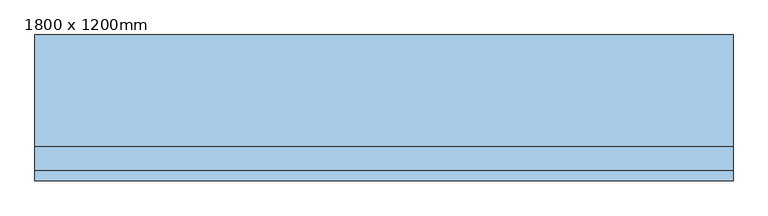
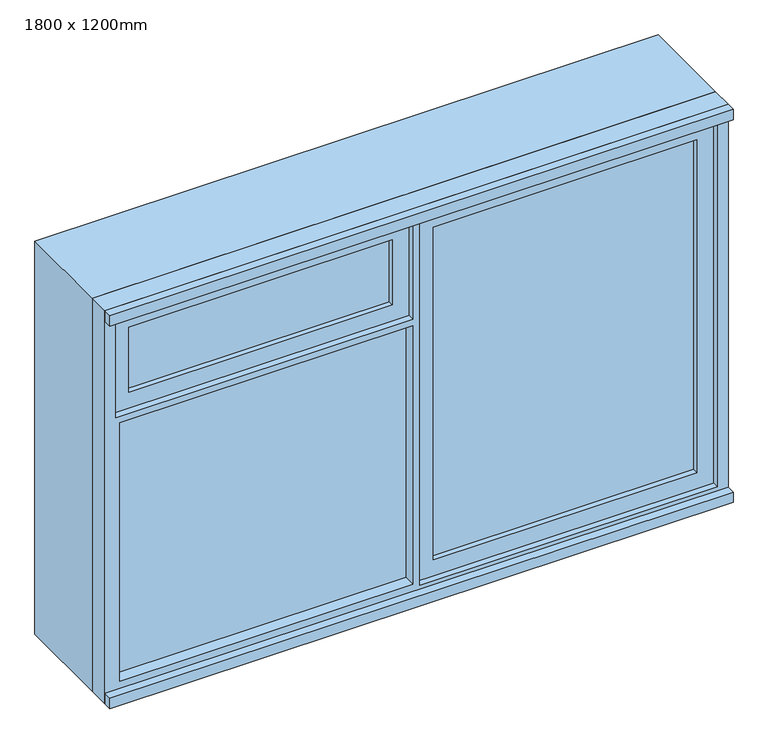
"""IFC4 building model written with IfcOpenShell, lengths in millimetres: window geometry, DvoukridleVentilace : 1800 x 1200mm."""

from ifc_helpers import new_model, si_unit, frame, origin, place, context, project, spatial, polyline, outline, extrude, source, transform, mapped, element, save


def window_1800_x_1200mm_3cd8aec8(model_context):
    return source(origin(), model_context, "Body", "SweptSolid", [
        extrude(outline(polyline([(-820.25, -140.075), (-820.25, -127.375), (-59.0, -127.375), (-59.0, -140.075), (-820.25, -140.075)])), frame((0.0, 0.0, 1826.8), z_axis=(0.0, 0.0, 1.0), x_axis=(1.0, 0.0, 0.0)), (0.0, 0.0, 1.0), 198.45),
        extrude(outline(polyline([(1777.8, -869.25), (1777.8, -10.0), (2072.0, -10.0), (2072.0, -869.25), (1777.8, -869.25)]), holes=[polyline([(1826.8, -820.25), (2025.25, -820.25), (2025.25, -59.0), (1826.8, -59.0), (1826.8, -820.25)])]), frame((0.0, -155.95, 0.0), z_axis=(0.0, 1.0, 0.0), x_axis=(0.0, 0.0, 1.0)), (0.0, 0.0, 1.0), 44.45),
        extrude(outline(polyline([(-857.0, -140.075), (-857.0, -127.375), (-10.0, -127.375), (-10.0, -140.075), (-857.0, -140.075)])), frame((0.0, 0.0, 968.0), z_axis=(0.0, 0.0, 1.0), x_axis=(1.0, 0.0, 0.0)), (0.0, 0.0, 1.0), 789.8),
        extrude(outline(polyline([(-900.0, -200.4), (-900.0, -175.0), (900.0, -175.0), (900.0, -200.4), (-900.0, -200.4)])), frame((0.0, 0.0, 2083.55), z_axis=(0.0, 0.0, 1.0), x_axis=(1.0, 0.0, 0.0)), (0.0, 0.0, 1.0), 31.45),
        extrude(outline(polyline([(-900.0, -200.4), (-900.0, -175.0), (900.0, -175.0), (900.0, -200.4), (-900.0, -200.4)])), frame((0.0, 0.0, 915.0), z_axis=(0.0, 0.0, 1.0), x_axis=(1.0, 0.0, 0.0)), (0.0, 0.0, 1.0), 31.45),
        extrude(outline(polyline([(820.25, -127.375), (820.25, -140.075), (59.0, -140.075), (59.0, -127.375), (820.25, -127.375)])), frame((0.0, 0.0, 1007.0), z_axis=(0.0, 0.0, 1.0), x_axis=(1.0, 0.0, 0.0)), (0.0, 0.0, 1.0), 1016.0),
        extrude(outline(polyline([(2072.0, 10.0), (958.0, 10.0), (958.0, 869.25), (2072.0, 869.25), (2072.0, 10.0)]), holes=[polyline([(2023.0, 59.0), (2023.0, 820.25), (1007.0, 820.25), (1007.0, 59.0), (2023.0, 59.0)])]), frame((0.0, -155.95, 0.0), z_axis=(0.0, 1.0, 0.0), x_axis=(0.0, 0.0, 1.0)), (0.0, 0.0, 1.0), 44.45),
        extrude(outline(polyline([(2115.0, -900.0), (915.0, -900.0), (915.0, 900.0), (2115.0, 900.0), (2115.0, -900.0)]), holes=[polyline([(2062.0, -857.0), (2062.0, 857.0), (968.0, 857.0), (968.0, -857.0), (2062.0, -857.0)])]), frame((0.0, -111.5, 0.0), z_axis=(0.0, 1.0, 0.0), x_axis=(0.0, 0.0, 1.0)), (0.0, 0.0, 1.0), 286.5),
        extrude(outline(polyline([(2115.0, 900.0), (2115.0, -900.0), (915.0, -900.0), (915.0, 900.0), (2115.0, 900.0)]), holes=[polyline([(1757.8, -10.0), (968.0, -10.0), (968.0, -857.0), (1757.8, -857.0), (1757.8, -10.0)]), polyline([(958.0, 869.25), (958.0, 10.0), (2072.0, 10.0), (2072.0, 869.25), (958.0, 869.25)]), polyline([(1777.8, -10.0), (1777.8, -869.25), (2072.0, -869.25), (2072.0, -10.0), (1777.8, -10.0)])]), frame((0.0, -175.0, 0.0), z_axis=(0.0, 1.0, 0.0), x_axis=(0.0, 0.0, 1.0)), (0.0, 0.0, 1.0), 63.5),
    ])


if __name__ == "__main__":
    model = new_model("IFC4")
    model_context = context("Model", 3, world=origin())
    ifc_project = project(units=[si_unit("LENGTHUNIT", "METRE", prefix="MILLI")], contexts=[model_context])
    site = spatial("IfcSite", under=ifc_project)
    building = spatial("IfcBuilding", under=site)
    placement = place(None, origin())
    window_1800_x_1200mm_shape = window_1800_x_1200mm_3cd8aec8(model_context)
    element("IfcWindow", 1, ObjectType="DvoukridleVentilace : 1800 x 1200mm", at=placement, inside=building, context=model_context, shape_type="MappedRepresentation", body=[
        mapped(window_1800_x_1200mm_shape, transform((0.0, 0.0, 0.0), x_axis=(1.0, 0.0, 0.0), y_axis=(0.0, 1.0, 0.0), z_axis=(0.0, 0.0, 1.0))),
    ])
    save(model, "model.ifc")
